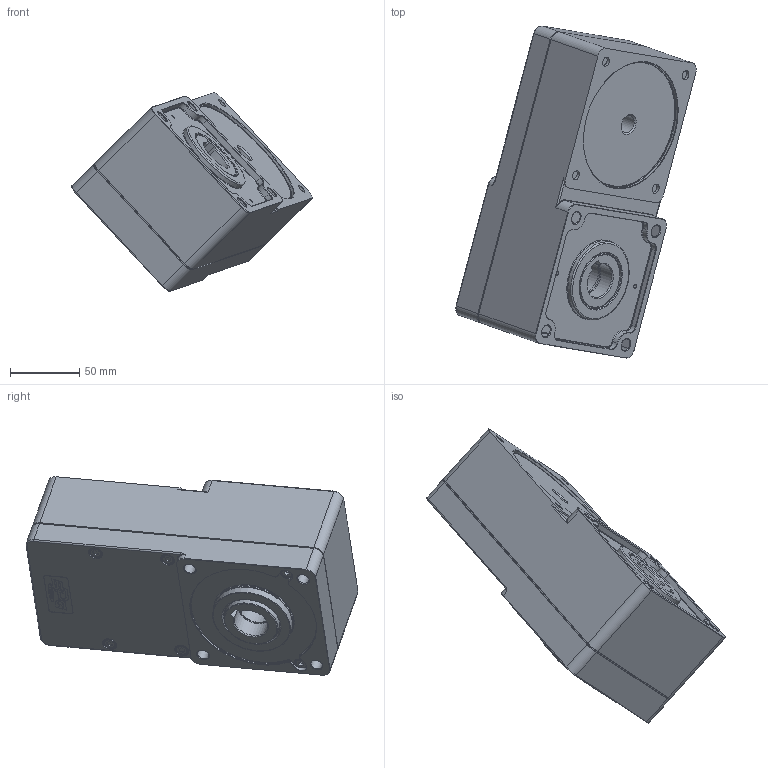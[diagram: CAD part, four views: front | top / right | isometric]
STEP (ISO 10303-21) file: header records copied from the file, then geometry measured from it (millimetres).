
FILE_DESCRIPTION(/* description */ (''),/* implementation_level */ '2;1');
FILE_NAME(/* name */ 'Y:\제품연구개발\4. 개발프로젝트\2. 프로젝트_제품군별\5. STANDARD BLDC\07_외부 발송용 자료\1_홈페이지 자료 2D 3D\3D\XVA_3D_신규\GEAR HEAD\XTG10( )H-F.stp',/* time_stamp */ '2021-04-30T11:56:03+09:00',/* author */ ('jingon'),/* organization */ (''),/* preprocessor_version */ 'ST-DEVELOPER v18',/* originating_system */ 'Autodesk Inventor 2020',/* authorisation */ '');
FILE_SCHEMA (('AUTOMOTIVE_DESIGN { 1 0 10303 214 3 1 1 }'));
Length unit declared in the file: millimetre
Products named in the file (1): XTG10H-F
Bounding box: 173.4 x 239.21 x 143.09 mm (x, y, z)
Volume: 1056775 mm3; surface area: 209238.5 mm2
Topology: 2 solids, 11 shells, 969 faces, 2419 edges, 1526 vertices
Faces by surface type: cylinder 369, plane 331, torus 188, cone 45, bspline 36
Full cylindrical faces by diameter (mm): 3 x2, 4 x2, 5 x6, 5.5 x6, 6.8 x4, 8.5 x10, 9 x4, 9.5 x6, 13 x1, 40 x2, 42 x2, 45 x2, 49 x1, 52 x2, 58 x2, 59 x1, 65 x1, 74 x1, 94 x1
Entity records: 31189 total; most frequent: CARTESIAN_POINT 6493, DIRECTION 5419, ORIENTED_EDGE 4824, EDGE_CURVE 2412, AXIS2_PLACEMENT_3D 2156, VERTEX_POINT 1526, CIRCLE 1220, LINE 1107
